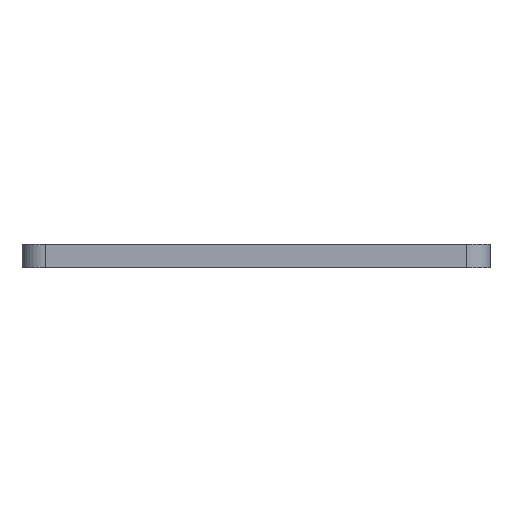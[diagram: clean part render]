
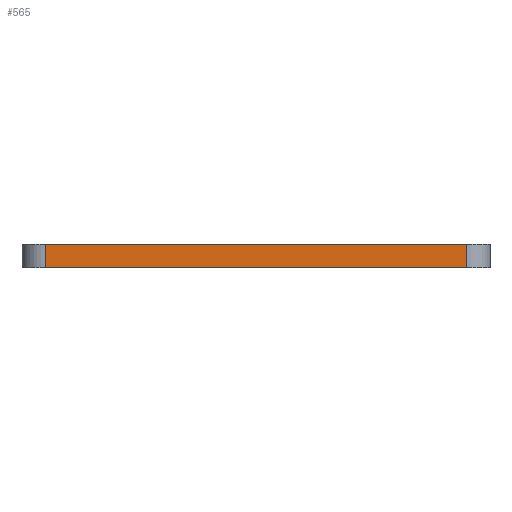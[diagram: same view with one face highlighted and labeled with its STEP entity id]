
A CAD part, left-side view. The second image highlights one B-rep face of the part: STEP entity #565.
In plain terms, the highlighted planar face has unit normal (-1, 0, 0).
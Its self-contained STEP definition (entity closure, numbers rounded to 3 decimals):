
#22 = VERTEX_POINT ( 'NONE', #599 ) ;
#27 = EDGE_LOOP ( 'NONE', ( #144, #108, #84, #934 ) ) ;
#75 = AXIS2_PLACEMENT_3D ( 'NONE', #810, #772, #761 ) ;
#84 = ORIENTED_EDGE ( 'NONE', *, *, #813, .F. ) ;
#85 = VECTOR ( 'NONE', #305, 1000. ) ;
#95 = LINE ( 'NONE', #238, #85 ) ;
#108 = ORIENTED_EDGE ( 'NONE', *, *, #597, .T. ) ;
#144 = ORIENTED_EDGE ( 'NONE', *, *, #461, .T. ) ;
#213 = CARTESIAN_POINT ( 'NONE',  ( -22.5, 19., 0. ) ) ;
#238 = CARTESIAN_POINT ( 'NONE',  ( -22.5, 20., 0. ) ) ;
#244 = VERTEX_POINT ( 'NONE', #213 ) ;
#305 = DIRECTION ( 'NONE',  ( 0., -1., 0. ) ) ;
#461 = EDGE_CURVE ( 'NONE', #244, #793, #95, .T. ) ;
#475 = CARTESIAN_POINT ( 'NONE',  ( -22.5, 1., 1. ) ) ;
#509 = VERTEX_POINT ( 'NONE', #475 ) ;
#529 = PLANE ( 'NONE',  #75 ) ;
#565 = ADVANCED_FACE ( 'NONE', ( #837 ), #529, .F. ) ;
#591 = VECTOR ( 'NONE', #740, 1000. ) ;
#597 = EDGE_CURVE ( 'NONE', #793, #509, #735, .T. ) ;
#599 = CARTESIAN_POINT ( 'NONE',  ( -22.5, 19., 1. ) ) ;
#600 = EDGE_CURVE ( 'NONE', #22, #244, #621, .T. ) ;
#601 = CARTESIAN_POINT ( 'NONE',  ( -22.5, 1., 0. ) ) ;
#614 = LINE ( 'NONE', #725, #803 ) ;
#621 = LINE ( 'NONE', #734, #865 ) ;
#697 = CARTESIAN_POINT ( 'NONE',  ( -22.5, 1., 1. ) ) ;
#725 = CARTESIAN_POINT ( 'NONE',  ( -22.5, 20., 1. ) ) ;
#734 = CARTESIAN_POINT ( 'NONE',  ( -22.5, 19., 1. ) ) ;
#735 = LINE ( 'NONE', #697, #591 ) ;
#740 = DIRECTION ( 'NONE',  ( 0., 0., 1. ) ) ;
#750 = DIRECTION ( 'NONE',  ( 0., 0., -1. ) ) ;
#761 = DIRECTION ( 'NONE',  ( 0., 1., 0. ) ) ;
#772 = DIRECTION ( 'NONE',  ( 1., 0., 0. ) ) ;
#793 = VERTEX_POINT ( 'NONE', #601 ) ;
#803 = VECTOR ( 'NONE', #811, 1000. ) ;
#810 = CARTESIAN_POINT ( 'NONE',  ( -22.5, 20., 1. ) ) ;
#811 = DIRECTION ( 'NONE',  ( 0., -1., 0. ) ) ;
#813 = EDGE_CURVE ( 'NONE', #22, #509, #614, .T. ) ;
#837 = FACE_OUTER_BOUND ( 'NONE', #27, .T. ) ;
#865 = VECTOR ( 'NONE', #750, 1000. ) ;
#934 = ORIENTED_EDGE ( 'NONE', *, *, #600, .T. ) ;
